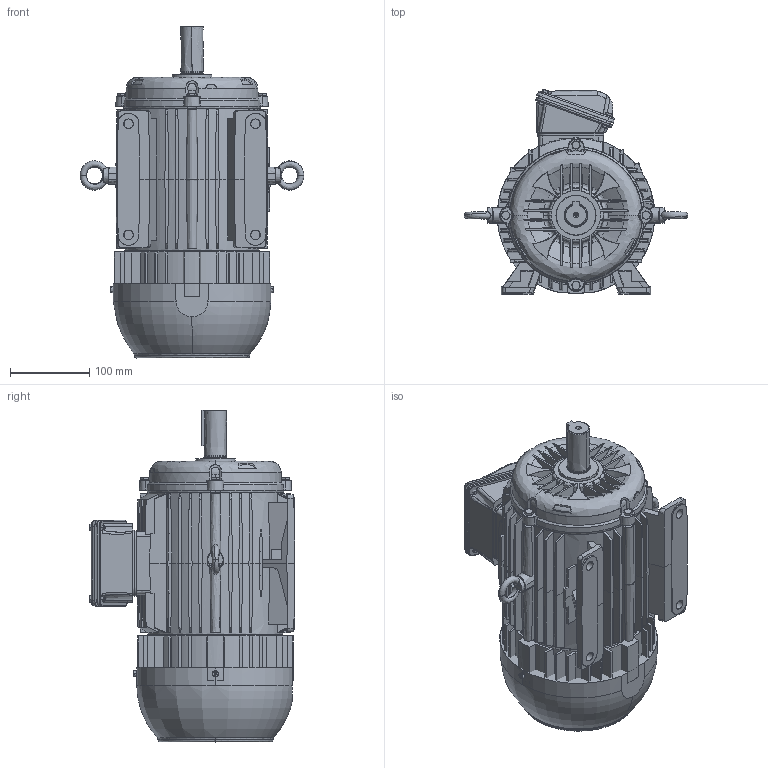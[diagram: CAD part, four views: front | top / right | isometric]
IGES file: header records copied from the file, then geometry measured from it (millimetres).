
Start section: SolidWorks IGES file using analytic representation for surfaces
Global section: file name: Q:\GROUPS\BR_SC_JGS_WMO_ENG_PRODUTO\ADMINISTRACAO_PRODUTO\Implantação de linha\Ian\Alterações site\56\M\10_FRAME_L100L\STANDARD\IGS\L100L_TOP.IGS; native system: SolidWorks 2018; preprocessor: SolidWorks 2018; author: ianr; date: 210527.095843; units: millimetre
Bounding box: 281.98 x 258.98 x 418.1 mm (x, y, z)
Surface area: 683889 mm2 (no closed solid volume)
Topology: 0 solids, 0 shells, 2214 faces, 19913 edges, 19909 vertices
Faces by surface type: bspline 1650, revolution 564
